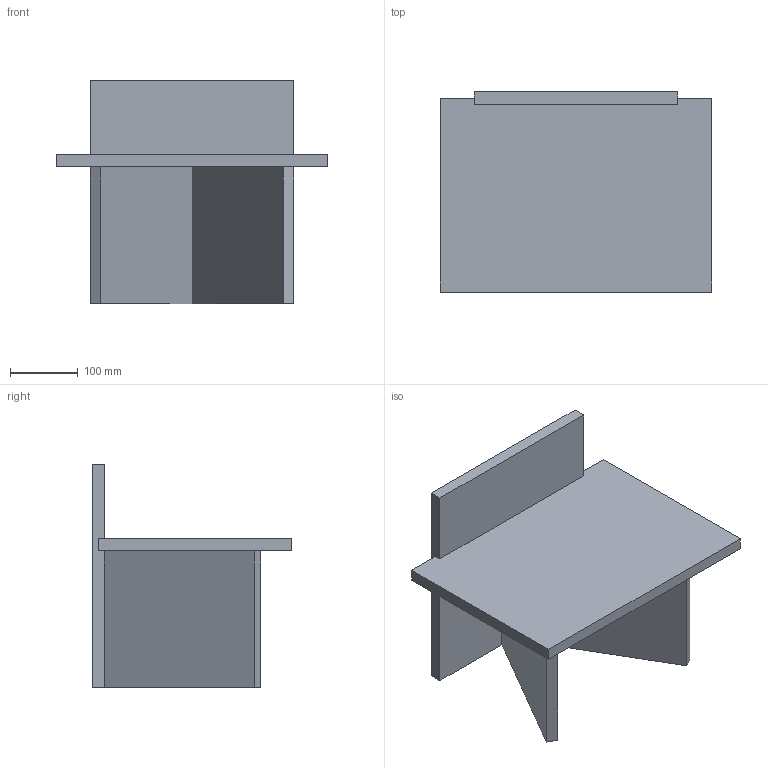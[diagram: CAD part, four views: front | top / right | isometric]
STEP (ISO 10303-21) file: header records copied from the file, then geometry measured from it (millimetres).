
FILE_DESCRIPTION(/* description */ (''),/* implementation_level */ '2;1');
FILE_NAME(/* name */ 'OQUQRW~F',/* time_stamp */ '2019-09-05T12:32:25+02:00',/* author */ (''),/* organization */ (''),/* preprocessor_version */ 'ST-DEVELOPER v16.5',/* originating_system */ '',/* authorisation */ '');
FILE_SCHEMA (('AUTOMOTIVE_DESIGN'));
Length unit declared in the file: millimetre
Products named in the file (1): Document
Bounding box: 400 x 295 x 330 mm (x, y, z)
Volume: 5680198.5 mm3; surface area: 739429.6 mm2
Topology: 4 solids, 4 shells, 59 faces, 127 edges, 84 vertices
Faces by surface type: plane 43, bspline 16
Entity records: 1531 total; most frequent: CARTESIAN_POINT 637, ORIENTED_EDGE 254, EDGE_CURVE 127, VERTEX_POINT 84, B_SPLINE_CURVE_WITH_KNOTS 79, EDGE_LOOP 67, ADVANCED_FACE 59, FACE_OUTER_BOUND 59
